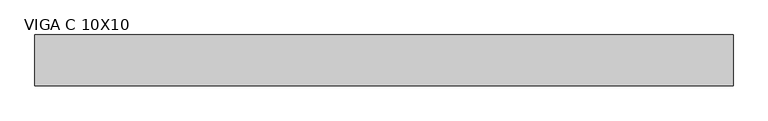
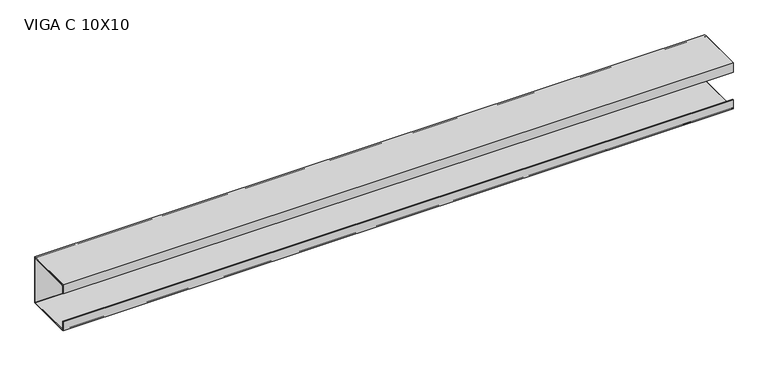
"""IFC4 building model written with IfcOpenShell, lengths in millimetres: beam geometry, VIGA PERFIL C AÇO : VIGA C 10X10."""

from ifc_helpers import new_model, si_unit, point, frame, frame_2d, origin, place, context, project, spatial, polyline, circle_curve, trimmed, segment, composite_curve, outline, extrude, source, transform, mapped, element, save


def viga_c_10x10_72518fa7(model_context):
    return source(origin(), model_context, "Body", "SweptSolid", [
        extrude(outline(polyline([(9.2, -50.0), (-90.8, -50.0), (-90.8, -30.0), (-88.9, -30.0), (-88.9, -48.1), (7.3, -48.1), (7.3, 48.1), (-88.9, 48.1), (-88.9, 30.0), (-90.8, 30.0), (-90.8, 50.0), (9.2, 50.0), (9.2, -50.0)])), frame((-714.5, 0.0, 0.0), z_axis=(1.0, 0.0, 0.0), x_axis=(0.0, 1.0, 0.0)), (0.0, 0.0, 1.0), 1375.0),
        extrude(outline(composite_curve([segment(trimmed(circle_curve(frame_2d((5.4, -46.2)), 3.8), [point((9.2, -46.2))], [point((5.4, -50.0))], False, "CARTESIAN"), True, "CONTINUOUS"), segment(polyline([(5.4, -50.0), (-87.0, -50.0)]), True, "CONTINUOUS"), segment(trimmed(circle_curve(frame_2d((-87.0, -46.2)), 3.8), [point((-87.0, -50.0))], [point((-90.8, -46.2))], False, "CARTESIAN"), True, "CONTINUOUS"), segment(polyline([(-90.8, -46.2), (-90.8, -30.0), (-88.9, -30.0), (-88.9, -46.2)]), True, "CONTINUOUS"), segment(trimmed(circle_curve(frame_2d((-87.0, -46.2)), 1.9), [point((-88.9, -46.2))], [point((-87.0, -48.1))], True, "CARTESIAN"), True, "CONTINUOUS"), segment(polyline([(-87.0, -48.1), (5.4, -48.1)]), True, "CONTINUOUS"), segment(trimmed(circle_curve(frame_2d((5.4, -46.2)), 1.9), [point((5.4, -48.1))], [point((7.3, -46.2))], True, "CARTESIAN"), True, "CONTINUOUS"), segment(polyline([(7.3, -46.2), (7.3, 46.2)]), True, "CONTINUOUS"), segment(trimmed(circle_curve(frame_2d((5.4, 46.2)), 1.9), [point((7.3, 46.2))], [point((5.4, 48.1))], True, "CARTESIAN"), True, "CONTINUOUS"), segment(polyline([(5.4, 48.1), (-87.0, 48.1)]), True, "CONTINUOUS"), segment(trimmed(circle_curve(frame_2d((-87.0, 46.2)), 1.9), [point((-87.0, 48.1))], [point((-88.9, 46.2))], True, "CARTESIAN"), True, "CONTINUOUS"), segment(polyline([(-88.9, 46.2), (-88.9, 30.0), (-90.8, 30.0), (-90.8, 46.2)]), True, "CONTINUOUS"), segment(trimmed(circle_curve(frame_2d((-87.0, 46.2)), 3.8), [point((-90.8, 46.2))], [point((-87.0, 50.0))], False, "CARTESIAN"), True, "CONTINUOUS"), segment(polyline([(-87.0, 50.0), (5.4, 50.0)]), True, "CONTINUOUS"), segment(trimmed(circle_curve(frame_2d((5.4, 46.2)), 3.8), [point((5.4, 50.0))], [point((9.2, 46.2))], False, "CARTESIAN"), True, "CONTINUOUS"), segment(polyline([(9.2, 46.2), (9.2, -46.2)]), True, "CONTINUOUS")], self_intersect=False)), frame((-714.5, 0.0, 0.0), z_axis=(1.0, 0.0, 0.0), x_axis=(0.0, 1.0, 0.0)), (0.0, 0.0, 1.0), 1375.0),
    ])


if __name__ == "__main__":
    model = new_model("IFC4")
    model_context = context("Model", 3, world=origin())
    ifc_project = project(units=[si_unit("LENGTHUNIT", "METRE", prefix="MILLI")], contexts=[model_context])
    site = spatial("IfcSite", under=ifc_project)
    building = spatial("IfcBuilding", under=site)
    placement = place(None, origin())
    viga_c_10x10_shape = viga_c_10x10_72518fa7(model_context)
    element("IfcBeam", 1, ObjectType="VIGA PERFIL C AÇO : VIGA C 10X10", at=placement, inside=building, context=model_context, shape_type="MappedRepresentation", body=[
        mapped(viga_c_10x10_shape, transform((0.0, 0.0, 0.0), x_axis=(1.0, 0.0, 0.0), y_axis=(0.0, 1.0, 0.0), z_axis=(0.0, 0.0, 1.0))),
    ])
    save(model, "model.ifc")
